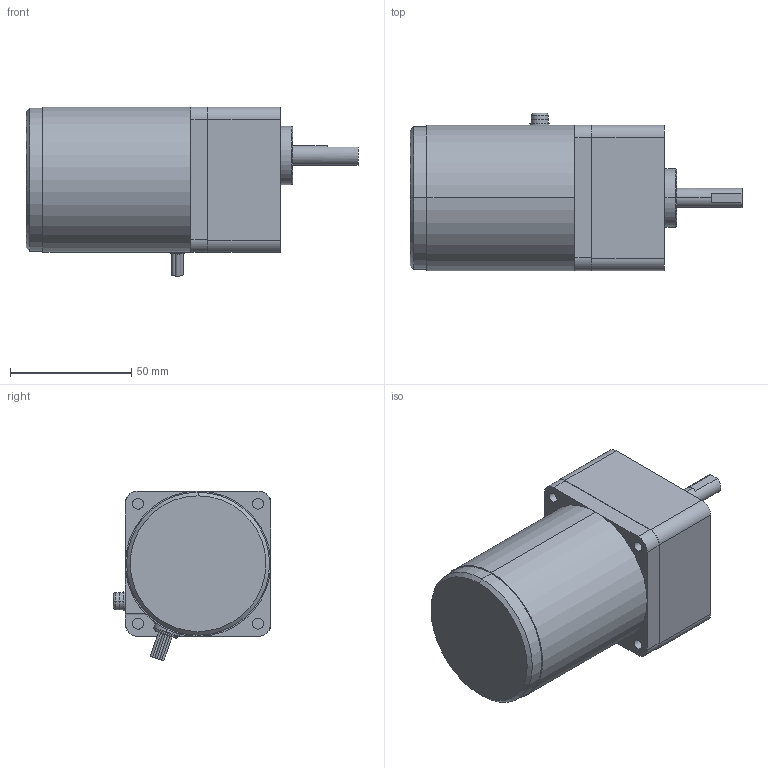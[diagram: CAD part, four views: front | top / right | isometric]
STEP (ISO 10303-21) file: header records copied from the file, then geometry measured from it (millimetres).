
FILE_DESCRIPTION(('starvars output'),'2;1');
FILE_NAME('2IK6GN-AW2U _ 2GN12.5SA.stp','10:26:13 2015/05/11',( 'Thomas Industrial Network Germany GmbH'),( 'Thomas Industrial Network Germany GmbH'),'unknown preprocess','ACIS' ,'unknown authorization');
FILE_SCHEMA(('AUTOMOTIVE_DESIGN_CC2 {UNKNOWN IMPLEMENTATION LEVEL}'));
Length unit declared in the file: millimetre
Products named in the file (1): PRODUCT_ID_197
Bounding box: 137 x 65 x 70.14 mm (x, y, z)
Volume: 322902.9 mm3; surface area: 32516.7 mm2
Topology: 1 solids, 1 shells, 116 faces, 259 edges, 166 vertices
Faces by surface type: cylinder 56, plane 50, torus 8, cone 2
Entity records: 3896 total; most frequent: CARTESIAN_POINT 543, ORIENTED_EDGE 518, DIRECTION 445, EDGE_CURVE 259, AXIS2_PLACEMENT_3D 169, VERTEX_POINT 166, EDGE_LOOP 137, FACE_BOUND 137
